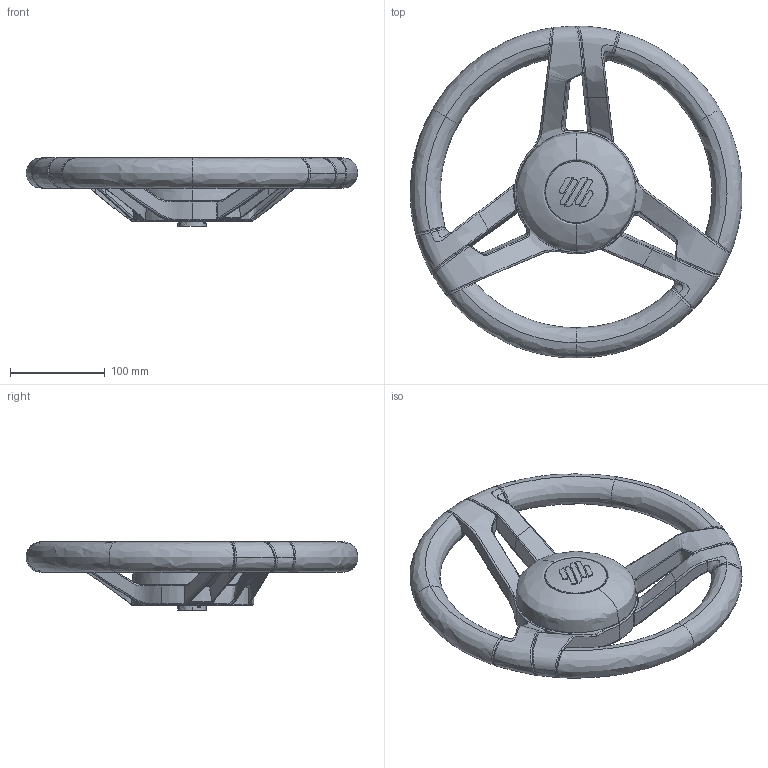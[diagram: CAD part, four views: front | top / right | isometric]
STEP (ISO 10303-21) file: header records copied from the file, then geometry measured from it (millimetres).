
FILE_DESCRIPTION(/* description */ (''),/* implementation_level */ '2;1');
FILE_NAME(/* name */ '3D per configuratore - Oderico',/* time_stamp */ '2016-07-21T10:16:34+02:00',/* author */ (''),/* organization */ (''),/* preprocessor_version */ 'ST-DEVELOPER v10',/* originating_system */ '',/* authorisation */ '');
FILE_SCHEMA (('CONFIG_CONTROL_DESIGN'));
Length unit declared in the file: millimetre
Products named in the file (1): 1
Bounding box: 349.58 x 349.95 x 72 mm (x, y, z)
Volume: 318205.4 mm3; surface area: 296103.7 mm2
Topology: 6 solids, 10 shells, 696 faces, 1765 edges, 1076 vertices
Faces by surface type: bspline 599, plane 97
Entity records: 57416 total; most frequent: CARTESIAN_POINT 47540, ORIENTED_EDGE 3512, EDGE_CURVE 1761, VERTEX_POINT 1076, B_SPLINE_CURVE_WITH_KNOTS 807, EDGE_LOOP 756, ADVANCED_FACE 696, FACE_OUTER_BOUND 696
